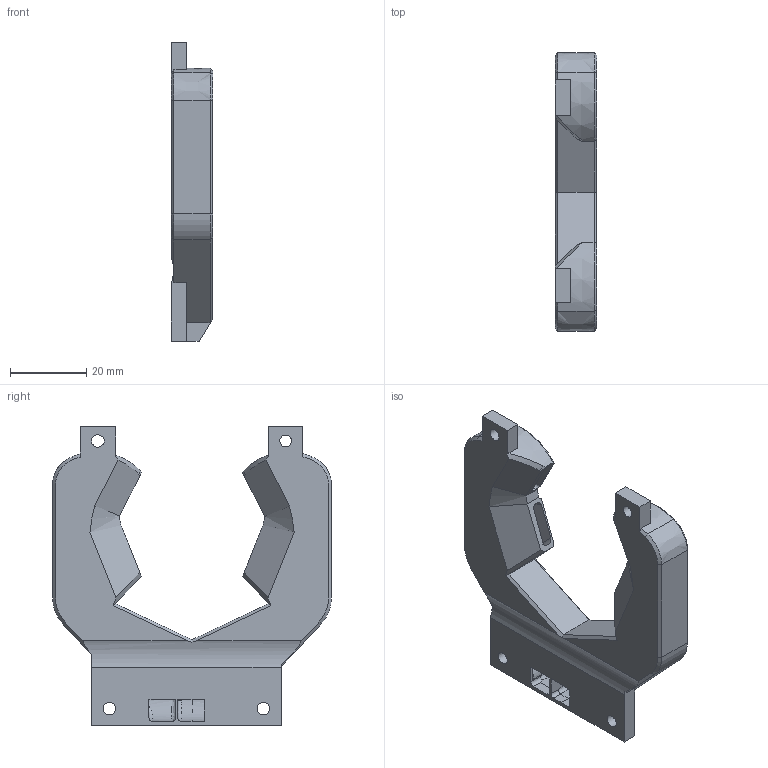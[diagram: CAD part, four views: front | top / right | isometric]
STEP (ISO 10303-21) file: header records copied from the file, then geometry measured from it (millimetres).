
FILE_DESCRIPTION(/* description */ (''),/* implementation_level */ '2;1');
FILE_NAME(/* name */ 'C:/Users/Martin/Documents/icarus-2.1/icarus-2-current-step-files/4-fan-ducts/icarus-fan-duct-2.5.step',/* time_stamp */ '2022-09-18T10:44:06+02:00',/* author */ (''),/* organization */ (''),/* preprocessor_version */ 'ST-DEVELOPER v19',/* originating_system */ 'Autodesk Translation Framework v11.7.0.108',/* authorisation */ '');
FILE_SCHEMA (('AUTOMOTIVE_DESIGN { 1 0 10303 214 3 1 1 }'));
Length unit declared in the file: millimetre
Products named in the file (1): icarus-fan-duct-2.1
Bounding box: 11 x 73.3 x 78.54 mm (x, y, z)
Volume: 12747.5 mm3; surface area: 17909.8 mm2
Topology: 1 solids, 1 shells, 327 faces, 894 edges, 564 vertices
Faces by surface type: bspline 119, plane 118, cylinder 76, torus 9, cone 4, sphere 1
Full cylindrical faces by diameter (mm): 3.1 x1, 3.3 x4
Entity records: 15774 total; most frequent: CARTESIAN_POINT 8180, ORIENTED_EDGE 1782, DIRECTION 1255, EDGE_CURVE 891, VERTEX_POINT 564, LINE 423, VECTOR 423, AXIS2_PLACEMENT_3D 416
